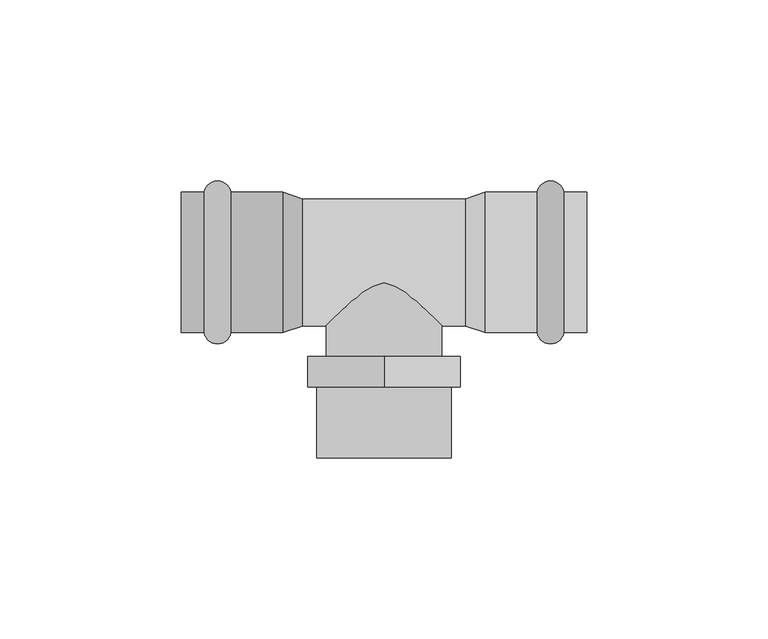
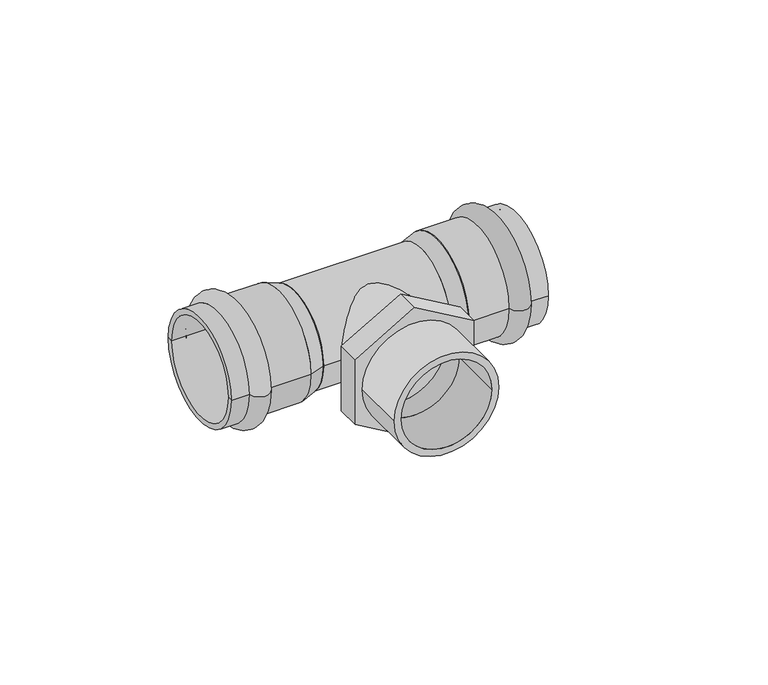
"""IFC4 building model written with IfcOpenShell, lengths in millimetres: pipe fitting geometry, VALTEC_VTi.933.I_Тройник с переходом на наружную  резьбу нержавеющая сталь : VTi.933.I."""

from ifc_helpers import new_model, si_unit, point, frame, origin, origin_2d, place, context, project, spatial, polyline, circle_curve, ellipse_curve, trimmed, segment, composite_curve, outline, extrude, source, transform, mapped, element, save
from ifc_brep_helpers import plane_surface, cylinder_surface, revolved_surface, advanced_brep


def pipe_fitting_26831ec3(model_context):
    return source(origin(), model_context, "Body", "SolidModel", [
        advanced_brep(
        [(49.6432371, 19.4, 0.0), (49.6432371, -19.4, 0.0), (42.2567629, -19.4, 0.0), (42.2567629, 19.4, 0.0), (56.0, 19.4, 0.0), (56.0, -19.4, 0.0), (56.0, 17.5, 0.0), (56.0, -17.5, 0.0), (28.0, 17.5, 0.0), (28.0, -17.5, 0.0), (28.0, 19.4, 0.0), (28.0, -19.4, 0.0)],
        [
            (0, 1, circle_curve(frame((49.6432371, 0.0, 0.0), z_axis=(-1.0, 0.0, 0.0), x_axis=(0.0, -1.0, 0.0)), 19.4)),
            (1, 2, circle_curve(frame((45.95, -18.75, 0.0), z_axis=(0.0, 0.0, -1.0), x_axis=(-1.0, 0.0, 0.0)), 3.75)),
            (2, 3, circle_curve(frame((42.2567629, 0.0, 0.0), z_axis=(1.0, 0.0, 0.0), x_axis=(0.0, -1.0, 0.0)), 19.4)),
            (3, 0, circle_curve(frame((45.95, 18.75, 0.0), z_axis=(0.0, 0.0, -1.0), x_axis=(-1.0, 0.0, 0.0)), 3.75)),
            (1, 0, circle_curve(frame((49.6432371, 0.0, 0.0), z_axis=(-1.0, 0.0, 0.0), x_axis=(0.0, -1.0, 0.0)), 19.4)),
            (3, 2, circle_curve(frame((42.2567629, 0.0, 0.0), z_axis=(1.0, 0.0, 0.0), x_axis=(0.0, -1.0, 0.0)), 19.4)),
            (4, 5, circle_curve(frame((56.0, 0.0, 0.0), z_axis=(-1.0, 0.0, 0.0), x_axis=(0.0, -1.0, 0.0)), 19.4)),
            (5, 1),
            (0, 4),
            (5, 4, circle_curve(frame((56.0, 0.0, 0.0), z_axis=(-1.0, 0.0, 0.0), x_axis=(0.0, -1.0, 0.0)), 19.4)),
            (6, 7, circle_curve(frame((56.0, 0.0, 0.0), z_axis=(-1.0, 0.0, 0.0), x_axis=(0.0, -1.0, 0.0)), 17.5)),
            (7, 5),
            (4, 6),
            (7, 6, circle_curve(frame((56.0, 0.0, 0.0), z_axis=(-1.0, 0.0, 0.0), x_axis=(0.0, -1.0, 0.0)), 17.5)),
            (8, 9, circle_curve(frame((28.0, 0.0, 0.0), z_axis=(-1.0, 0.0, 0.0), x_axis=(0.0, -1.0, 0.0)), 17.5)),
            (9, 7),
            (6, 8),
            (9, 8, circle_curve(frame((28.0, 0.0, 0.0), z_axis=(-1.0, 0.0, 0.0), x_axis=(0.0, -1.0, 0.0)), 17.5)),
            (10, 11, circle_curve(frame((28.0, 0.0, 0.0), z_axis=(-1.0, 0.0, 0.0), x_axis=(0.0, -1.0, 0.0)), 19.4)),
            (11, 9),
            (8, 10),
            (11, 10, circle_curve(frame((28.0, 0.0, 0.0), z_axis=(-1.0, 0.0, 0.0), x_axis=(0.0, -1.0, 0.0)), 19.4)),
            (2, 11),
            (10, 3),
        ],
        [
            revolved_surface(trimmed(ellipse_curve(frame((45.95, -18.75, 0.0), z_axis=(0.0, 0.0, 1.0), x_axis=(-1.0, 0.0, 0.0)), 3.75, 3.75), [point((42.2567629, -19.4, 0.0))], [point((49.6432371, -19.4, 0.0))], True, "CARTESIAN"), (59.5364426, 0.0, 0.0), (1.0, 0.0, 0.0)),
            cylinder_surface(frame((59.5364426, 0.0, 0.0), z_axis=(1.0, 0.0, 0.0), x_axis=(0.0, -1.0, 0.0)), 19.4),
            plane_surface(frame((56.0, 0.0, 0.0), z_axis=(1.0, 0.0, 0.0), x_axis=(0.0, -1.0, 0.0))),
            revolved_surface(polyline([(56.0, -17.5, 0.0), (28.0, -17.5, 0.0)]), (59.5364426, 0.0, 0.0), (1.0, 0.0, 0.0)),
            plane_surface(frame((28.0, 0.0, 0.0), z_axis=(-1.0, 0.0, 0.0), x_axis=(0.0, -1.0, 0.0))),
        ],
        [
            (0, [[1, 2, 3, 4]]),
            (0, [[5, -4, 6, -2]]),
            (1, [[7, 8, -1, 9]]),
            (1, [[10, -9, -5, -8]]),
            (2, [[11, 12, -7, 13]]),
            (2, [[14, -13, -10, -12]]),
            (3, [[15, 16, -11, 17]]),
            (3, [[18, -17, -14, -16]]),
            (4, [[19, 20, -15, 21]]),
            (4, [[22, -21, -18, -20]]),
            (1, [[-3, 23, -19, 24]]),
            (1, [[-6, -24, -22, -23]]),
        ],
    ),
        advanced_brep(
        [(-49.6432371, -19.4, 0.0), (-49.6432371, 19.4, 0.0), (-42.2567629, 19.4, 0.0), (-42.2567629, -19.4, 0.0), (-56.0, -19.4, 0.0), (-56.0, 19.4, 0.0), (-56.0, -17.5, 0.0), (-56.0, 17.5, 0.0), (-28.0, -17.5, 0.0), (-28.0, 17.5, 0.0), (-28.0, -19.4, 0.0), (-28.0, 19.4, 0.0)],
        [
            (0, 1, circle_curve(frame((-49.6432371, 0.0, 0.0), z_axis=(1.0, 0.0, 0.0), x_axis=(0.0, 1.0, 0.0)), 19.4)),
            (1, 2, circle_curve(frame((-45.95, 18.75, 0.0), z_axis=(0.0, 0.0, -1.0), x_axis=(1.0, 0.0, 0.0)), 3.75)),
            (2, 3, circle_curve(frame((-42.2567629, 0.0, 0.0), z_axis=(-1.0, 0.0, 0.0), x_axis=(0.0, 1.0, 0.0)), 19.4)),
            (3, 0, circle_curve(frame((-45.95, -18.75, 0.0), z_axis=(0.0, 0.0, -1.0), x_axis=(1.0, 0.0, 0.0)), 3.75)),
            (1, 0, circle_curve(frame((-49.6432371, 0.0, 0.0), z_axis=(1.0, 0.0, 0.0), x_axis=(0.0, 1.0, 0.0)), 19.4)),
            (3, 2, circle_curve(frame((-42.2567629, 0.0, 0.0), z_axis=(-1.0, 0.0, 0.0), x_axis=(0.0, 1.0, 0.0)), 19.4)),
            (4, 5, circle_curve(frame((-56.0, 0.0, 0.0), z_axis=(1.0, 0.0, 0.0), x_axis=(0.0, 1.0, 0.0)), 19.4)),
            (5, 1),
            (0, 4),
            (5, 4, circle_curve(frame((-56.0, 0.0, 0.0), z_axis=(1.0, 0.0, 0.0), x_axis=(0.0, 1.0, 0.0)), 19.4)),
            (6, 7, circle_curve(frame((-56.0, 0.0, 0.0), z_axis=(1.0, 0.0, 0.0), x_axis=(0.0, 1.0, 0.0)), 17.5)),
            (7, 5),
            (4, 6),
            (7, 6, circle_curve(frame((-56.0, 0.0, 0.0), z_axis=(1.0, 0.0, 0.0), x_axis=(0.0, 1.0, 0.0)), 17.5)),
            (8, 9, circle_curve(frame((-28.0, 0.0, 0.0), z_axis=(1.0, 0.0, 0.0), x_axis=(0.0, 1.0, 0.0)), 17.5)),
            (9, 7),
            (6, 8),
            (9, 8, circle_curve(frame((-28.0, 0.0, 0.0), z_axis=(1.0, 0.0, 0.0), x_axis=(0.0, 1.0, 0.0)), 17.5)),
            (10, 11, circle_curve(frame((-28.0, 0.0, 0.0), z_axis=(1.0, 0.0, 0.0), x_axis=(0.0, 1.0, 0.0)), 19.4)),
            (11, 9),
            (8, 10),
            (11, 10, circle_curve(frame((-28.0, 0.0, 0.0), z_axis=(1.0, 0.0, 0.0), x_axis=(0.0, 1.0, 0.0)), 19.4)),
            (2, 11),
            (10, 3),
        ],
        [
            revolved_surface(trimmed(ellipse_curve(frame((-45.95, 18.75, 0.0), z_axis=(0.0, 0.0, 1.0), x_axis=(1.0, 0.0, 0.0)), 3.75, 3.75), [point((-42.2567629, 19.4, 0.0))], [point((-49.6432371, 19.4, 0.0))], True, "CARTESIAN"), (-59.5364426, 0.0, 0.0), (-1.0, 0.0, 0.0)),
            cylinder_surface(frame((-59.5364426, 0.0, 0.0), z_axis=(-1.0, 0.0, 0.0), x_axis=(0.0, 1.0, 0.0)), 19.4),
            plane_surface(frame((-56.0, 0.0, 0.0), z_axis=(-1.0, 0.0, 0.0), x_axis=(0.0, 1.0, 0.0))),
            revolved_surface(polyline([(-56.0, 17.5, 0.0), (-28.0, 17.5, 0.0)]), (-59.5364426, 0.0, 0.0), (-1.0, 0.0, 0.0)),
            plane_surface(frame((-28.0, 0.0, 0.0), z_axis=(1.0, 0.0, 0.0), x_axis=(0.0, 1.0, 0.0))),
        ],
        [
            (0, [[1, 2, 3, 4]]),
            (0, [[5, -4, 6, -2]]),
            (1, [[7, 8, -1, 9]]),
            (1, [[10, -9, -5, -8]]),
            (2, [[11, 12, -7, 13]]),
            (2, [[14, -13, -10, -12]]),
            (3, [[15, 16, -11, 17]]),
            (3, [[18, -17, -14, -16]]),
            (4, [[19, 20, -15, 21]]),
            (4, [[22, -21, -18, -20]]),
            (1, [[-3, 23, -19, 24]]),
            (1, [[-6, -24, -22, -23]]),
        ],
    ),
        extrude(outline(composite_curve([segment(trimmed(circle_curve(origin_2d(), 18.5), [point((0.0, -18.5))], [point((0.0, 18.5))], False, "CARTESIAN"), True, "CONTINUOUS"), segment(trimmed(circle_curve(origin_2d(), 18.5), [point((0.0, 18.5))], [point((0.0, -18.5))], False, "CARTESIAN"), True, "CONTINUOUS")], self_intersect=False), holes=[composite_curve([segment(trimmed(circle_curve(origin_2d(), 16.0), [point((0.0, -16.0))], [point((0.0, 16.0))], True, "CARTESIAN"), True, "CONTINUOUS"), segment(trimmed(circle_curve(origin_2d(), 16.0), [point((0.0, 16.0))], [point((0.0, -16.0))], True, "CARTESIAN"), True, "CONTINUOUS")], self_intersect=False)]), frame((0.0, -54.0, 0.0), z_axis=(0.0, 1.0, 0.0), x_axis=(0.0, 0.0, 1.0)), (0.0, 0.0, 1.0), 19.6),
        extrude(outline(polyline([(24.2487113, 0.0), (12.1243557, -21.0), (-12.1243557, -21.0), (-24.2487113, 0.0), (-12.1243557, 21.0), (12.1243557, 21.0), (24.2487113, 0.0)]), holes=[composite_curve([segment(trimmed(circle_curve(origin_2d(), 16.0), [point((0.0, -16.0))], [point((0.0, 16.0))], True, "CARTESIAN"), True, "CONTINUOUS"), segment(trimmed(circle_curve(origin_2d(), 16.0), [point((0.0, 16.0))], [point((0.0, -16.0))], True, "CARTESIAN"), True, "CONTINUOUS")], self_intersect=False)]), frame((0.0, -34.4, 0.0), z_axis=(0.0, 1.0, 0.0), x_axis=(0.0, 0.0, 1.0)), (0.0, 0.0, 1.0), 8.4),
        extrude(outline(composite_curve([segment(trimmed(circle_curve(origin_2d(), 16.0), [point((0.0, -16.0))], [point((0.0, 16.0))], False, "CARTESIAN"), True, "CONTINUOUS"), segment(trimmed(circle_curve(origin_2d(), 16.0), [point((0.0, 16.0))], [point((0.0, -16.0))], False, "CARTESIAN"), True, "CONTINUOUS")], self_intersect=False)), frame((0.0, -26.0, 0.0), z_axis=(0.0, 1.0, 0.0), x_axis=(0.0, 0.0, 1.0)), (0.0, 0.0, 1.0), 26.0),
        extrude(outline(composite_curve([segment(trimmed(circle_curve(origin_2d(), 17.5), [point((-17.5, 0.0))], [point((17.5, 0.0))], False, "CARTESIAN"), True, "CONTINUOUS"), segment(trimmed(circle_curve(origin_2d(), 17.5), [point((17.5, 0.0))], [point((-17.5, 0.0))], False, "CARTESIAN"), True, "CONTINUOUS")], self_intersect=False)), frame((-22.4, 0.0, 0.0), z_axis=(1.0, 0.0, 0.0), x_axis=(0.0, 1.0, 0.0)), (0.0, 0.0, 1.0), 44.8),
        advanced_brep(
        [(28.0, -19.4, 0.0), (28.0, 19.4, 0.0), (22.4, -17.5, 0.0), (22.4, 17.5, 0.0)],
        [
            (0, 1, circle_curve(frame((28.0, 0.0, 0.0), z_axis=(1.0, 0.0, 0.0), x_axis=(0.0, -1.0, 0.0)), 19.4)),
            (1, 0, circle_curve(frame((28.0, 0.0, 0.0), z_axis=(1.0, 0.0, 0.0), x_axis=(0.0, 1.0, 0.0)), 19.4)),
            (2, 3, circle_curve(frame((22.4, 0.0, 0.0), z_axis=(-1.0, 0.0, 0.0), x_axis=(0.0, 1.0, 0.0)), 17.5)),
            (3, 2, circle_curve(frame((22.4, 0.0, 0.0), z_axis=(-1.0, 0.0, 0.0), x_axis=(0.0, -1.0, 0.0)), 17.5)),
            (3, 1),
            (0, 2),
        ],
        [
            plane_surface(frame((28.0, 0.0, 0.0), z_axis=(1.0, 0.0, 0.0), x_axis=(0.0, 0.0, 1.0))),
            plane_surface(frame((22.4, 0.0, 0.0), z_axis=(-1.0, 0.0, 0.0), x_axis=(0.0, 0.0, 1.0))),
            revolved_surface(polyline([(22.4, 17.500000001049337, 0.0), (28.0, 19.4, 0.0)]), (-29.1789474, 0.0, 0.0), (1.0, 0.0, 0.0)),
            revolved_surface(polyline([(22.4, -17.500000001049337, 0.0), (28.0, -19.4, 0.0)]), (-29.1789474, 0.0, 0.0), (1.0, 0.0, 0.0)),
        ],
        [
            (0, [[1, 2]]),
            (1, [[3, 4]]),
            (2, [[-4, 5, -1, 6]]),
            (3, [[-3, -6, -2, -5]]),
        ],
    ),
        advanced_brep(
        [(-28.0, -19.4, 0.0), (-28.0, 19.4, 0.0), (-22.4, -17.5, 0.0), (-22.4, 17.5, 0.0)],
        [
            (0, 1, circle_curve(frame((-28.0, 0.0, 0.0), z_axis=(-1.0, 0.0, 0.0), x_axis=(0.0, -1.0, 0.0)), 19.4)),
            (1, 0, circle_curve(frame((-28.0, 0.0, 0.0), z_axis=(-1.0, 0.0, 0.0), x_axis=(0.0, 1.0, 0.0)), 19.4)),
            (2, 3, circle_curve(frame((-22.4, 0.0, 0.0), z_axis=(1.0, 0.0, 0.0), x_axis=(0.0, 1.0, 0.0)), 17.5)),
            (3, 2, circle_curve(frame((-22.4, 0.0, 0.0), z_axis=(1.0, 0.0, 0.0), x_axis=(0.0, -1.0, 0.0)), 17.5)),
            (2, 0),
            (1, 3),
        ],
        [
            plane_surface(frame((-28.0, 0.0, 0.0), z_axis=(-1.0, 0.0, 0.0), x_axis=(0.0, 0.0, -1.0))),
            plane_surface(frame((-22.4, 0.0, 0.0), z_axis=(1.0, 0.0, 0.0), x_axis=(0.0, 0.0, -1.0))),
            revolved_surface(polyline([(-22.4, -17.500000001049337, 0.0), (-28.0, -19.4, 0.0)]), (29.1789474, 0.0, 0.0), (-1.0, 0.0, 0.0)),
            revolved_surface(polyline([(-22.4, 17.500000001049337, 0.0), (-28.0, 19.4, 0.0)]), (29.1789474, 0.0, 0.0), (-1.0, 0.0, 0.0)),
        ],
        [
            (0, [[1, 2]]),
            (1, [[3, 4]]),
            (2, [[-3, 5, -2, 6]]),
            (3, [[-4, -6, -1, -5]]),
        ],
    ),
    ])


if __name__ == "__main__":
    model = new_model("IFC4")
    model_context = context("Model", 3, world=origin())
    ifc_project = project(units=[si_unit("LENGTHUNIT", "METRE", prefix="MILLI")], contexts=[model_context])
    site = spatial("IfcSite", under=ifc_project)
    building = spatial("IfcBuilding", under=site)
    placement = place(None, origin())
    pipe_fitting_shape = pipe_fitting_26831ec3(model_context)
    element("IfcPipeFitting", 1, ObjectType="VALTEC_VTi.933.I_Тройник с переходом на наружную  резьбу нержавеющая сталь : VTi.933.I", at=placement, inside=building, context=model_context, shape_type="MappedRepresentation", body=[
        mapped(pipe_fitting_shape, transform((0.0, 0.0, 0.0), x_axis=(1.0, 0.0, 0.0), y_axis=(0.0, 1.0, 0.0), z_axis=(0.0, 0.0, 1.0))),
    ])
    save(model, "model.ifc")
